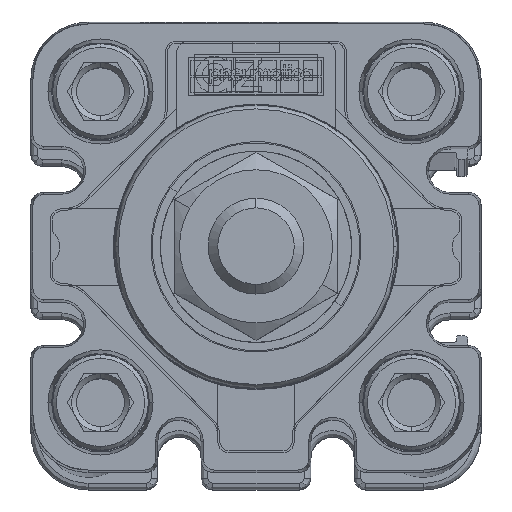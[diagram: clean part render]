
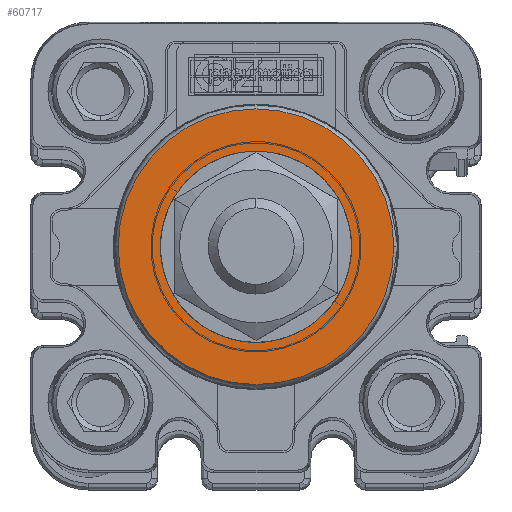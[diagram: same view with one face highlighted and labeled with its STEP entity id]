
A CAD part, top view. The second image highlights one B-rep face of the part: STEP entity #60717.
In plain terms, the highlighted planar face has unit normal (0, 0, 1) as drawn and (0, 0, -1) by its records, which use the part's own axes.
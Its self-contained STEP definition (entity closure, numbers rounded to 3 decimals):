
#1842 = EDGE_CURVE ( 'NONE', #28427, #20025, #70453, .T. ) ;
#1897 = AXIS2_PLACEMENT_3D ( 'NONE', #52068, #62591, #29307 ) ;
#2351 = AXIS2_PLACEMENT_3D ( 'NONE', #41779, #36390, #30786 ) ;
#2973 = EDGE_LOOP ( 'NONE', ( #28657, #72691 ) ) ;
#4408 = EDGE_CURVE ( 'NONE', #67636, #27459, #11209, .T. ) ;
#9388 = CARTESIAN_POINT ( 'NONE',  ( -14.408, 0., -42.7 ) ) ;
#11209 = CIRCLE ( 'NONE', #1897, 10. ) ;
#11870 = EDGE_CURVE ( 'NONE', #27459, #67636, #36202, .T. ) ;
#12242 = ORIENTED_EDGE ( 'NONE', *, *, #4408, .F. ) ;
#12448 = DIRECTION ( 'NONE',  ( 0., 0., 1. ) ) ;
#13190 = FACE_BOUND ( 'NONE', #48009, .T. ) ;
#19109 = CARTESIAN_POINT ( 'NONE',  ( 0., 0., -42.7 ) ) ;
#20025 = VERTEX_POINT ( 'NONE', #9388 ) ;
#20091 = CARTESIAN_POINT ( 'NONE',  ( 0., 0., -42.7 ) ) ;
#21599 = EDGE_CURVE ( 'NONE', #20025, #28427, #51720, .T. ) ;
#25234 = ORIENTED_EDGE ( 'NONE', *, *, #11870, .F. ) ;
#27459 = VERTEX_POINT ( 'NONE', #35155 ) ;
#28427 = VERTEX_POINT ( 'NONE', #61315 ) ;
#28657 = ORIENTED_EDGE ( 'NONE', *, *, #21599, .F. ) ;
#29307 = DIRECTION ( 'NONE',  ( -1., 0., 0. ) ) ;
#30786 = DIRECTION ( 'NONE',  ( -1., 0., 0. ) ) ;
#35155 = CARTESIAN_POINT ( 'NONE',  ( 10., 0., -42.7 ) ) ;
#35166 = CARTESIAN_POINT ( 'NONE',  ( 0., 0., -42.7 ) ) ;
#35437 = PLANE ( 'NONE',  #2351 ) ;
#36116 = DIRECTION ( 'NONE',  ( -1., 0., 0. ) ) ;
#36202 = CIRCLE ( 'NONE', #63284, 10. ) ;
#36340 = DIRECTION ( 'NONE',  ( -1., 0., 0. ) ) ;
#36390 = DIRECTION ( 'NONE',  ( 0., 0., -1. ) ) ;
#37012 = FACE_OUTER_BOUND ( 'NONE', #2973, .T. ) ;
#41779 = CARTESIAN_POINT ( 'NONE',  ( 0., 0., -42.7 ) ) ;
#47605 = CARTESIAN_POINT ( 'NONE',  ( -10., 0., -42.7 ) ) ;
#48009 = EDGE_LOOP ( 'NONE', ( #12242, #25234 ) ) ;
#51720 = CIRCLE ( 'NONE', #53529, 14.408 ) ;
#52068 = CARTESIAN_POINT ( 'NONE',  ( 0., 0., -42.7 ) ) ;
#53529 = AXIS2_PLACEMENT_3D ( 'NONE', #35166, #12448, #36116 ) ;
#59608 = DIRECTION ( 'NONE',  ( -1., 0., 0. ) ) ;
#60717 = ADVANCED_FACE ( 'NONE', ( #13190, #37012 ), #35437, .T. ) ;
#61315 = CARTESIAN_POINT ( 'NONE',  ( 14.408, 0., -42.7 ) ) ;
#62591 = DIRECTION ( 'NONE',  ( 0., 0., -1. ) ) ;
#63284 = AXIS2_PLACEMENT_3D ( 'NONE', #19109, #64014, #36340 ) ;
#64014 = DIRECTION ( 'NONE',  ( 0., 0., -1. ) ) ;
#64989 = DIRECTION ( 'NONE',  ( 0., 0., 1. ) ) ;
#67478 = AXIS2_PLACEMENT_3D ( 'NONE', #20091, #64989, #59608 ) ;
#67636 = VERTEX_POINT ( 'NONE', #47605 ) ;
#70453 = CIRCLE ( 'NONE', #67478, 14.408 ) ;
#72691 = ORIENTED_EDGE ( 'NONE', *, *, #1842, .F. ) ;
